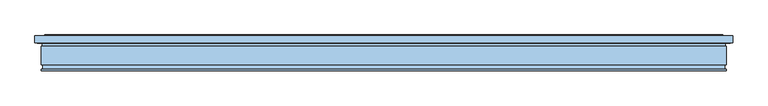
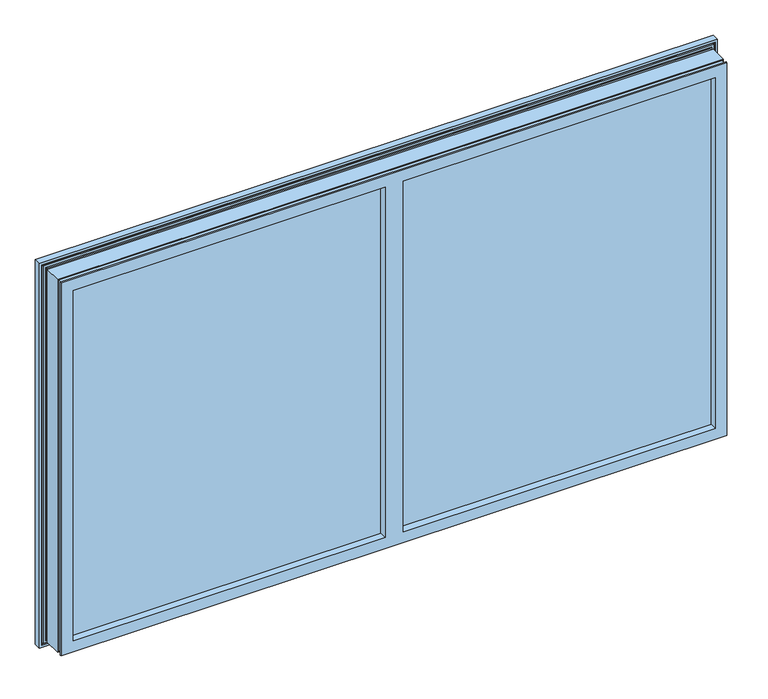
"""IFC4 building model written with IfcOpenShell, lengths in millimetres: window geometry, Comfort+_CVU-2_Metaglas : KozijnMerk."""

from ifc_helpers import new_model, si_unit, frame, origin, place, context, project, spatial, polyline, outline, extrude, faceted_brep, source, transform, mapped, element, save


def window_659a14fe(model_context):
    return source(origin(), model_context, "Body", "SolidModel", [
        extrude(outline(polyline([(-22.7425307, 22.0), (-22.7425307, 16.0), (-950.7425307, 16.0), (-950.7425307, 22.0), (-22.7425307, 22.0)])), frame((0.0, 0.0, 836.0), z_axis=(0.0, 0.0, 1.0), x_axis=(1.0, 0.0, 0.0)), (0.0, 0.0, 1.0), 1128.0),
        extrude(outline(polyline([(-22.7425307, 1.0), (-22.7425307, -3.5), (-950.7425307, -3.5), (-950.7425307, 1.0), (-22.7425307, 1.0)])), frame((0.0, 0.0, 836.0), z_axis=(0.0, 0.0, 1.0), x_axis=(1.0, 0.0, 0.0)), (0.0, 0.0, 1.0), 1128.0),
        extrude(outline(polyline([(-22.7425307, -18.5), (-22.7425307, -24.5), (-950.7425307, -24.5), (-950.7425307, -18.5), (-22.7425307, -18.5)])), frame((0.0, 0.0, 836.0), z_axis=(0.0, 0.0, 1.0), x_axis=(1.0, 0.0, 0.0)), (0.0, 0.0, 1.0), 1128.0),
        extrude(outline(polyline([(836.0, -22.7425307), (1964.0, -22.7425307), (1964.0, -950.7425307), (836.0, -950.7425307), (836.0, -22.7425307)]), holes=[polyline([(1952.0, -34.7425307), (848.0, -34.7425307), (848.0, -938.7425307), (1952.0, -938.7425307), (1952.0, -34.7425307)])]), frame((0.0, 1.0, 0.0), z_axis=(0.0, 1.0, 0.0), x_axis=(0.0, 0.0, 1.0)), (0.0, 0.0, 1.0), 15.0),
        extrude(outline(polyline([(836.0, -22.7425307), (1964.0, -22.7425307), (1964.0, -950.7425307), (836.0, -950.7425307), (836.0, -22.7425307)]), holes=[polyline([(1952.0, -34.7425307), (848.0, -34.7425307), (848.0, -938.7425307), (1952.0, -938.7425307), (1952.0, -34.7425307)])]), frame((0.0, -18.5, 0.0), z_axis=(0.0, 1.0, 0.0), x_axis=(0.0, 0.0, 1.0)), (0.0, 0.0, 1.0), 15.0),
        extrude(outline(polyline([(950.7425307, 22.0), (950.7425307, 16.0), (22.7425307, 16.0), (22.7425307, 22.0), (950.7425307, 22.0)])), frame((0.0, 0.0, 836.0), z_axis=(0.0, 0.0, 1.0), x_axis=(1.0, 0.0, 0.0)), (0.0, 0.0, 1.0), 1128.0),
        extrude(outline(polyline([(950.7425307, 1.0), (950.7425307, -3.5), (22.7425307, -3.5), (22.7425307, 1.0), (950.7425307, 1.0)])), frame((0.0, 0.0, 836.0), z_axis=(0.0, 0.0, 1.0), x_axis=(1.0, 0.0, 0.0)), (0.0, 0.0, 1.0), 1128.0),
        extrude(outline(polyline([(950.7425307, -18.5), (950.7425307, -24.5), (22.7425307, -24.5), (22.7425307, -18.5), (950.7425307, -18.5)])), frame((0.0, 0.0, 836.0), z_axis=(0.0, 0.0, 1.0), x_axis=(1.0, 0.0, 0.0)), (0.0, 0.0, 1.0), 1128.0),
        extrude(outline(polyline([(836.0, 950.7425307), (1964.0, 950.7425307), (1964.0, 22.7425307), (836.0, 22.7425307), (836.0, 950.7425307)]), holes=[polyline([(1952.0, 938.7425307), (848.0, 938.7425307), (848.0, 34.7425307), (1952.0, 34.7425307), (1952.0, 938.7425307)])]), frame((0.0, 1.0, 0.0), z_axis=(0.0, 1.0, 0.0), x_axis=(0.0, 0.0, 1.0)), (0.0, 0.0, 1.0), 15.0),
        extrude(outline(polyline([(836.0, 950.7425307), (1964.0, 950.7425307), (1964.0, 22.7425307), (836.0, 22.7425307), (836.0, 950.7425307)]), holes=[polyline([(1952.0, 938.7425307), (848.0, 938.7425307), (848.0, 34.7425307), (1952.0, 34.7425307), (1952.0, 938.7425307)])]), frame((0.0, -18.5, 0.0), z_axis=(0.0, 1.0, 0.0), x_axis=(0.0, 0.0, 1.0)), (0.0, 0.0, 1.0), 15.0),
        faceted_brep([(-954.4569059, 37.7, 1954.4569059), (-954.4569059, 30.9, 1954.4569059), (-954.4569059, 30.9, 845.5430941), (-954.4569059, 37.7, 845.5430941), (954.4569059, 30.9, 845.5430941), (954.4569059, 37.7, 845.5430941), (958.1, 30.9, 841.9), (958.1, 30.9, 1958.1), (-958.1, 30.9, 1958.1), (-958.1, 30.9, 841.9), (954.4569059, 30.9, 1954.4569059), (954.4569059, 37.7, 1954.4569059), (-950.6430941, 37.7, 849.3569059), (-950.6430941, 37.7, 1950.6430941), (950.6430941, 37.7, 1950.6430941), (950.6430941, 37.7, 849.3569059), (-950.6430941, 30.9, 1950.6430941), (-950.6430941, 30.9, 849.3569059), (950.6430941, 30.9, 849.3569059), (950.6430941, 30.9, 1950.6430941), (-947.0, 30.9, 853.0), (-947.0, 30.9, 1947.0), (947.0, 30.9, 1947.0), (947.0, 30.9, 853.0), (-947.0, 52.0, 1947.0), (-947.0, 52.0, 853.0), (947.0, 52.0, 853.0), (947.0, 52.0, 1947.0), (-971.1687709, 52.0, 828.8312291), (-971.1687709, 52.0, 1971.1687709), (971.1687709, 52.0, 1971.1687709), (971.1687709, 52.0, 828.8312291), (-971.1687709, 50.0, 1971.1687709), (-971.1687709, 50.0, 828.8312291), (971.1687709, 50.0, 828.8312291), (971.1687709, 50.0, 1971.1687709), (-965.0, 50.0, 835.0), (-965.0, 50.0, 1965.0), (965.0, 50.0, 1965.0), (965.0, 50.0, 835.0), (-965.0, 45.0, 1965.0), (-965.0, 45.0, 835.0), (965.0, 45.0, 835.0), (965.0, 45.0, 1965.0), (-958.1, 45.0, 841.9), (-958.1, 45.0, 1958.1), (958.1, 45.0, 1958.1), (958.1, 45.0, 841.9)], [[[0, 1, 2, 3]], [[3, 2, 4, 5]], [[6, 7, 8, 9], [2, 1, 10, 4]], [[5, 4, 10, 11]], [[5, 11, 0, 3], [12, 13, 14, 15]], [[16, 13, 12, 17]], [[17, 12, 15, 18]], [[18, 15, 14, 19]], [[18, 19, 16, 17], [20, 21, 22, 23]], [[24, 21, 20, 25]], [[25, 20, 23, 26]], [[26, 23, 22, 27]], [[28, 29, 30, 31], [26, 27, 24, 25]], [[32, 29, 28, 33]], [[33, 28, 31, 34]], [[34, 31, 30, 35]], [[34, 35, 32, 33], [36, 37, 38, 39]], [[40, 37, 36, 41]], [[41, 36, 39, 42]], [[42, 39, 38, 43]], [[42, 43, 40, 41], [44, 45, 46, 47]], [[8, 45, 44, 9]], [[9, 44, 47, 6]], [[6, 47, 46, 7]], [[11, 10, 1, 0]], [[19, 14, 13, 16]], [[27, 22, 21, 24]], [[35, 30, 29, 32]], [[43, 38, 37, 40]], [[7, 46, 45, 8]]]),
        faceted_brep([(-8.5, -30.0, 853.0), (-5.2291119, -28.9608904, 853.0), (-5.2291119, -20.1940428, 853.0), (-8.4999978, -20.1940428, 853.0), (-8.4999978, -17.7500005, 853.0), (-7.873404, -15.4793407, 853.0), (-7.6951446, -12.4659389, 853.0), (-7.6951446, 11.4143973, 853.0), (-7.8787921, 12.9100865, 853.0), (-8.5, 16.75, 853.0), (-8.5, 30.9, 853.0), (-19.0430941, 30.9, 853.0), (-19.0430941, 37.7, 853.0), (-22.8569059, 37.7, 853.0), (-22.8569059, 30.9, 853.0), (-26.5, 30.9, 853.0), (-26.5, 52.0, 853.0), (26.5, 52.0, 853.0), (26.5, 30.9, 853.0), (22.8569059, 30.9, 853.0), (22.8569059, 37.7, 853.0), (19.0430941, 37.7, 853.0), (19.0430941, 30.9, 853.0), (8.5, 30.9, 853.0), (8.5, 16.75, 853.0), (7.8787921, 12.9100865, 853.0), (7.6951446, 11.4143973, 853.0), (7.6951446, -12.4659389, 853.0), (7.873404, -15.4793407, 853.0), (8.4999978, -17.7500005, 853.0), (8.4999978, -20.1940428, 853.0), (5.2291119, -20.1940428, 853.0), (5.2291119, -28.9608904, 853.0), (8.5, -30.0, 853.0), (-8.5, -30.0, 1947.0), (-5.2291119, -28.9608904, 1947.0), (-5.2291119, -20.1940428, 1947.0), (-8.4999978, -20.1940428, 1947.0), (-8.4999978, -17.7500005, 1947.0), (-7.873404, -15.4793407, 1947.0), (-7.6951446, -12.4659389, 1947.0), (-7.6951446, 11.4143973, 1947.0), (-7.8787921, 12.9100865, 1947.0), (-8.5, 16.75, 1947.0), (-8.5, 30.9, 1947.0), (-19.0430941, 30.9, 1947.0), (-19.0430941, 37.7, 1947.0), (-22.8569059, 37.7, 1947.0), (-22.8569059, 30.9, 1947.0), (-26.5, 30.9, 1947.0), (-26.5, 52.0, 1947.0), (26.5, 52.0, 1947.0), (26.5, 30.9, 1947.0), (22.8569059, 30.9, 1947.0), (22.8569059, 37.7, 1947.0), (19.0430941, 37.7, 1947.0), (19.0430941, 30.9, 1947.0), (8.5, 30.9, 1947.0), (8.5, 16.75, 1947.0), (7.8787921, 12.9100865, 1947.0), (7.6951446, 11.4143973, 1947.0), (7.6951446, -12.4659389, 1947.0), (7.873404, -15.4793407, 1947.0), (8.4999978, -17.7500005, 1947.0), (8.4999978, -20.1940428, 1947.0), (5.2291119, -20.1940428, 1947.0), (5.2291119, -28.9608904, 1947.0), (8.5, -30.0, 1947.0), (-954.1273304, -30.0, 845.8726696), (-954.1273304, -30.0, 1954.1273304), (954.1273304, -30.0, 1954.1273304), (954.1273304, -30.0, 845.8726696), (26.5, -30.0, 1947.0), (26.5, -30.0, 853.0), (946.9850614, -30.0, 853.0149386), (946.9850614, -30.0, 1946.9850614), (-946.9850614, -30.0, 853.0149386), (-26.5, -30.0, 853.0), (-26.5, -30.0, 1947.0), (-946.9850614, -30.0, 1946.9850614), (-19.3725928, -30.0, 853.0), (-15.5089631, -30.0, 853.0), (-15.5089631, -30.0, 1947.0), (-19.3725928, -30.0, 1947.0), (19.3725928, -30.0, 853.0), (19.3725928, -30.0, 1947.0), (15.5089631, -30.0, 1947.0), (15.5089631, -30.0, 853.0), (-981.9850614, -51.0, 1981.9850614), (-981.9850614, -51.0, 818.0149386), (981.9850614, -51.0, 818.0149386), (981.9850614, -51.0, 1981.9850614), (-26.5, -51.0, 1947.0), (-26.5, -51.0, 853.0), (-946.9850614, -51.0, 853.0149386), (-946.9850614, -51.0, 1946.9850614), (26.5, -51.0, 853.0), (26.5, -51.0, 1947.0), (946.9850614, -51.0, 1946.9850614), (946.9850614, -51.0, 853.0149386), (-19.3725928, -33.3751885, 853.0149386), (-15.5089631, -33.3751885, 853.0149386), (15.5089631, -33.3751885, 853.0149386), (19.3725928, -33.3751885, 853.0149386), (-981.9850614, -47.0, 1981.9850614), (-981.9850614, -47.0, 818.0149386), (981.9850614, -47.0, 818.0149386), (981.9850614, -47.0, 1981.9850614), (19.3725928, -33.3751885, 1947.0), (15.5089631, -33.3751885, 1947.0), (-954.1273304, -33.1902947, 1954.1273304), (-954.1273304, -33.1902947, 845.8726696), (954.1273304, -33.1902947, 845.8726696), (954.1273304, -33.1902947, 1954.1273304), (-15.5089631, -33.3751885, 1947.0), (-19.3725928, -33.3751885, 1947.0), (-992.8725928, 32.3765351, 1992.8725928), (-992.8725928, 29.0, 1992.8725928), (-992.8725928, 29.0, 807.1274072), (-992.8725928, 32.3765351, 807.1274072), (-1000.0, 29.0, 2000.0), (-1000.0, 29.0, 800.0), (1000.0, 29.0, 800.0), (1000.0, 29.0, 2000.0), (992.8725928, 29.0, 1992.8725928), (992.8725928, 29.0, 807.1274072), (992.8725928, 32.3765351, 807.1274072), (992.8725928, 32.3765351, 1992.8725928), (-989.0089631, 32.3765351, 810.9910369), (-989.0089631, 32.3765351, 1989.0089631), (989.0089631, 32.3765351, 1989.0089631), (989.0089631, 32.3765351, 810.9910369), (-989.0089631, 29.0, 1989.0089631), (-989.0089631, 29.0, 810.9910369), (989.0089631, 29.0, 810.9910369), (989.0089631, 29.0, 1989.0089631), (-981.9850614, 29.0, 818.0149386), (-981.9850614, 29.0, 1981.9850614), (981.9850614, 29.0, 1981.9850614), (981.9850614, 29.0, 818.0149386), (-981.9850614, 27.9608904, 1981.9850614), (-981.9850614, 27.9608904, 818.0149386), (981.9850614, 27.9608904, 818.0149386), (981.9850614, 27.9608904, 1981.9850614), (-978.7447337, 27.9608904, 821.2552663), (-978.7447337, 27.9608904, 1978.7447337), (978.7447337, 27.9608904, 1978.7447337), (978.7447337, 27.9608904, 821.2552663), (-978.7447337, 19.1940428, 1978.7447337), (-978.7447337, 19.1940428, 821.2552663), (978.7447337, 19.1940428, 821.2552663), (-981.9850614, 19.1940428, 818.0149386), (-981.9850614, 19.1940428, 1981.9850614), (981.9850614, 19.1940428, 1981.9850614), (981.9850614, 19.1940428, 818.0149386), (978.7447337, 19.1940428, 1978.7447337), (-981.9850614, -33.0, 1981.9850614), (-981.9850614, -33.0, 818.0149386), (981.9850614, -33.0, 818.0149386), (981.9850614, -33.0, 1981.9850614), (-980.4999232, -33.0, 819.5000768), (-980.4999232, -33.0, 1980.4999232), (980.4999232, -33.0, 1980.4999232), (980.4999232, -33.0, 819.5000768), (-980.4999232, -31.0, 1980.4999232), (-980.4999232, -31.0, 819.5000768), (980.4999232, -31.0, 819.5000768), (980.4999232, -31.0, 1980.4999232), (-977.4912716, -31.0, 822.5087284), (-977.4912716, -31.0, 1977.4912716), (977.4912716, -31.0, 1977.4912716), (977.4912716, -31.0, 822.5087284), (-977.4912716, -49.0, 1977.4912716), (-977.4912716, -49.0, 822.5087284), (977.4912716, -49.0, 822.5087284), (-980.4999232, -49.0, 819.5000768), (-980.4999232, -49.0, 1980.4999232), (980.4999232, -49.0, 1980.4999232), (980.4999232, -49.0, 819.5000768), (977.4912716, -49.0, 1977.4912716), (-980.4999232, -47.0, 1980.4999232), (-980.4999232, -47.0, 819.5000768), (980.4999232, -47.0, 819.5000768), (980.4999232, -47.0, 1980.4999232), (-957.9909601, -33.1902947, 842.0090399), (-957.9909601, -33.1902947, 1957.9909601), (957.9909601, -33.1902947, 1957.9909601), (957.9909601, -33.1902947, 842.0090399), (-957.9909601, -30.0, 1957.9909601), (-957.9909601, -30.0, 842.0090399), (957.9909601, -30.0, 842.0090399), (-965.0, -30.0, 835.0), (-965.0, -30.0, 1965.0), (965.0, -30.0, 1965.0), (965.0, -30.0, 835.0), (957.9909601, -30.0, 1957.9909601), (-965.0, -28.9608904, 1965.0), (-965.0, -28.9608904, 835.0), (965.0, -28.9608904, 835.0), (-968.2224333, -28.9608904, 831.7775667), (-968.2224333, -28.9608904, 1968.2224333), (968.2224333, -28.9608904, 1968.2224333), (968.2224333, -28.9608904, 831.7775667), (965.0, -28.9608904, 1965.0), (-968.2224333, -20.1940428, 1968.2224333), (-968.2224333, -20.1940428, 831.7775667), (968.2224333, -20.1940428, 831.7775667), (968.2224333, -20.1940428, 1968.2224333), (-965.0, -20.1940428, 835.0), (-965.0, -20.1940428, 1965.0), (965.0, -20.1940428, 1965.0), (965.0, -20.1940428, 835.0), (-965.0, 32.0, 1965.0), (-965.0, 32.0, 835.0), (965.0, 32.0, 835.0), (-966.502736, 32.0, 833.497264), (-966.502736, 32.0, 1966.502736), (966.502736, 32.0, 1966.502736), (966.502736, 32.0, 833.497264), (965.0, 32.0, 1965.0), (-966.502736, 30.0, 1966.502736), (-966.502736, 30.0, 833.497264), (966.502736, 30.0, 833.497264), (-969.5, 30.0, 830.5), (-969.5, 30.0, 1969.5), (969.5, 30.0, 1969.5), (969.5, 30.0, 830.5), (966.502736, 30.0, 1966.502736), (-969.5, 48.0, 1969.5), (-969.5, 48.0, 830.5), (969.5, 48.0, 830.5), (969.5, 48.0, 1969.5), (-966.5, 48.0, 833.5), (-966.5, 48.0, 1966.5), (966.5, 48.0, 1966.5), (966.5, 48.0, 833.5), (-966.5, 46.0, 1966.5), (-966.5, 46.0, 833.5), (966.5, 46.0, 833.5), (966.5, 46.0, 1966.5), (-965.0, 46.0, 835.0), (-965.0, 46.0, 1965.0), (965.0, 46.0, 1965.0), (965.0, 46.0, 835.0), (-965.0, 50.0, 1965.0), (-965.0, 50.0, 835.0), (965.0, 50.0, 835.0), (-1000.0, 50.0, 800.0), (-1000.0, 50.0, 2000.0), (1000.0, 50.0, 2000.0), (1000.0, 50.0, 800.0), (965.0, 50.0, 1965.0)], [[[0, 1, 2, 3, 4, 5, 6, 7, 8, 9, 10, 11, 12, 13, 14, 15, 16, 17, 18, 19, 20, 21, 22, 23, 24, 25, 26, 27, 28, 29, 30, 31, 32, 33]], [[34, 35, 1, 0]], [[35, 36, 2, 1]], [[36, 37, 3, 2]], [[37, 38, 4, 3]], [[38, 39, 5, 4]], [[39, 40, 6, 5]], [[40, 41, 7, 6]], [[41, 42, 8, 7]], [[42, 43, 9, 8]], [[43, 44, 10, 9]], [[44, 45, 11, 10]], [[45, 46, 12, 11]], [[46, 47, 13, 12]], [[47, 48, 14, 13]], [[48, 49, 15, 14]], [[49, 50, 16, 15]], [[50, 51, 17, 16]], [[51, 52, 18, 17]], [[52, 53, 19, 18]], [[53, 54, 20, 19]], [[54, 55, 21, 20]], [[55, 56, 22, 21]], [[56, 57, 23, 22]], [[57, 58, 24, 23]], [[58, 59, 25, 24]], [[59, 60, 26, 25]], [[60, 61, 27, 26]], [[61, 62, 28, 27]], [[62, 63, 29, 28]], [[63, 64, 30, 29]], [[64, 65, 31, 30]], [[65, 66, 32, 31]], [[66, 67, 33, 32]], [[68, 69, 70, 71], [0, 33, 67, 34], [72, 73, 74, 75], [76, 77, 78, 79], [80, 81, 82, 83], [84, 85, 86, 87]], [[88, 89, 90, 91], [92, 93, 94, 95], [96, 97, 98, 99]], [[93, 92, 78, 77]], [[81, 80, 100, 101]], [[84, 87, 102, 103]], [[76, 94, 93, 77]], [[99, 74, 73, 96]], [[79, 95, 94, 76]], [[97, 96, 73, 72]], [[74, 99, 98, 75]], [[88, 104, 105, 89]], [[89, 105, 106, 90]], [[90, 106, 107, 91]], [[85, 84, 103, 108]], [[109, 102, 87, 86]], [[110, 69, 68, 111]], [[112, 71, 70, 113]], [[111, 68, 71, 112]], [[82, 81, 101, 114]], [[115, 100, 80, 83]], [[108, 103, 102, 109]], [[114, 101, 100, 115]], [[116, 117, 118, 119]], [[120, 121, 122, 123], [118, 117, 124, 125]], [[119, 118, 125, 126]], [[116, 119, 126, 127], [128, 129, 130, 131]], [[132, 129, 128, 133]], [[133, 128, 131, 134]], [[132, 133, 134, 135], [136, 137, 138, 139]], [[140, 137, 136, 141]], [[141, 136, 139, 142]], [[140, 141, 142, 143], [144, 145, 146, 147]], [[148, 145, 144, 149]], [[149, 144, 147, 150]], [[151, 152, 153, 154], [148, 149, 150, 155]], [[156, 152, 151, 157]], [[157, 151, 154, 158]], [[156, 157, 158, 159], [160, 161, 162, 163]], [[164, 161, 160, 165]], [[165, 160, 163, 166]], [[164, 165, 166, 167], [168, 169, 170, 171]], [[172, 169, 168, 173]], [[173, 168, 171, 174]], [[175, 176, 177, 178], [172, 173, 174, 179]], [[180, 176, 175, 181]], [[181, 175, 178, 182]], [[105, 104, 107, 106], [180, 181, 182, 183]], [[184, 185, 186, 187], [110, 111, 112, 113]], [[188, 185, 184, 189]], [[189, 184, 187, 190]], [[191, 192, 193, 194], [188, 189, 190, 195]], [[196, 192, 191, 197]], [[197, 191, 194, 198]], [[199, 200, 201, 202], [196, 197, 198, 203]], [[204, 200, 199, 205]], [[205, 199, 202, 206]], [[204, 205, 206, 207], [208, 209, 210, 211]], [[212, 209, 208, 213]], [[213, 208, 211, 214]], [[215, 216, 217, 218], [212, 213, 214, 219]], [[220, 216, 215, 221]], [[221, 215, 218, 222]], [[223, 224, 225, 226], [220, 221, 222, 227]], [[228, 224, 223, 229]], [[229, 223, 226, 230]], [[228, 229, 230, 231], [232, 233, 234, 235]], [[236, 233, 232, 237]], [[237, 232, 235, 238]], [[236, 237, 238, 239], [240, 241, 242, 243]], [[244, 241, 240, 245]], [[245, 240, 243, 246]], [[247, 248, 249, 250], [244, 245, 246, 251]], [[120, 248, 247, 121]], [[121, 247, 250, 122]], [[126, 125, 124, 127]], [[134, 131, 130, 135]], [[142, 139, 138, 143]], [[150, 147, 146, 155]], [[158, 154, 153, 159]], [[166, 163, 162, 167]], [[174, 171, 170, 179]], [[182, 178, 177, 183]], [[190, 187, 186, 195]], [[198, 194, 193, 203]], [[206, 202, 201, 207]], [[214, 211, 210, 219]], [[222, 218, 217, 227]], [[230, 226, 225, 231]], [[238, 235, 234, 239]], [[246, 243, 242, 251]], [[122, 250, 249, 123]], [[67, 66, 65, 64, 63, 62, 61, 60, 59, 58, 57, 56, 55, 54, 53, 52, 51, 50, 49, 48, 47, 46, 45, 44, 43, 42, 41, 40, 39, 38, 37, 36, 35, 34]], [[86, 85, 108, 109]], [[83, 82, 114, 115]], [[95, 79, 78, 92]], [[75, 98, 97, 72]], [[104, 88, 91, 107]], [[69, 110, 113, 70]], [[117, 116, 127, 124]], [[129, 132, 135, 130]], [[137, 140, 143, 138]], [[145, 148, 155, 146]], [[152, 156, 159, 153]], [[161, 164, 167, 162]], [[169, 172, 179, 170]], [[176, 180, 183, 177]], [[185, 188, 195, 186]], [[192, 196, 203, 193]], [[200, 204, 207, 201]], [[209, 212, 219, 210]], [[216, 220, 227, 217]], [[224, 228, 231, 225]], [[233, 236, 239, 234]], [[241, 244, 251, 242]], [[248, 120, 123, 249]]]),
    ])


if __name__ == "__main__":
    model = new_model("IFC4")
    model_context = context("Model", 3, world=origin())
    ifc_project = project(units=[si_unit("LENGTHUNIT", "METRE", prefix="MILLI")], contexts=[model_context])
    site = spatial("IfcSite", under=ifc_project)
    building = spatial("IfcBuilding", under=site)
    placement = place(None, origin())
    window_shape = window_659a14fe(model_context)
    element("IfcWindow", 1, ObjectType="Comfort+_CVU-2_Metaglas : KozijnMerk", at=placement, inside=building, context=model_context, shape_type="MappedRepresentation", body=[
        mapped(window_shape, transform((0.0, 0.0, 0.0), x_axis=(1.0, 0.0, 0.0), y_axis=(0.0, 1.0, 0.0), z_axis=(0.0, 0.0, 1.0))),
    ])
    save(model, "model.ifc")
